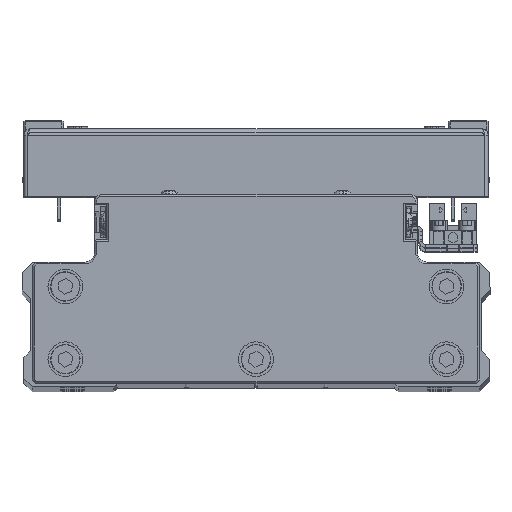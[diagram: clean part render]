
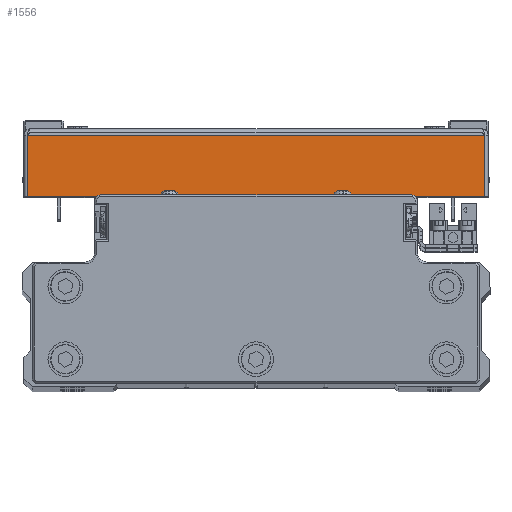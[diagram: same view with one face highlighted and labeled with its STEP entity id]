
A CAD part, top view. The second image highlights one B-rep face of the part: STEP entity #1556.
In plain terms, the highlighted planar face has unit normal (0, 0, 1) as drawn and (1, 0, 0) by its records, which use the part's own axes.
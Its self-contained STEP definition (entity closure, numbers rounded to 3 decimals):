
#1244 = LINE ( 'NONE', #14948, #38288 ) ;
#1556 = ADVANCED_FACE ( 'NONE', ( #35996 ), #5179, .F. ) ;
#1814 = DIRECTION ( 'NONE',  ( 0., -1., 0. ) ) ;
#2291 = EDGE_CURVE ( 'NONE', #24288, #39675, #29295, .T. ) ;
#3872 = ORIENTED_EDGE ( 'NONE', *, *, #20920, .T. ) ;
#4875 = CARTESIAN_POINT ( 'NONE',  ( 100., 18.5, -65.929 ) ) ;
#5179 = PLANE ( 'NONE',  #16564 ) ;
#6278 = LINE ( 'NONE', #19989, #44425 ) ;
#6630 = DIRECTION ( 'NONE',  ( 0., 1., 0. ) ) ;
#8735 = CARTESIAN_POINT ( 'NONE',  ( 100., 1., -65.929 ) ) ;
#11927 = ORIENTED_EDGE ( 'NONE', *, *, #2291, .F. ) ;
#12187 = DIRECTION ( 'NONE',  ( 0., 0., 1. ) ) ;
#14948 = CARTESIAN_POINT ( 'NONE',  ( 100., 18.5, 0. ) ) ;
#16564 = AXIS2_PLACEMENT_3D ( 'NONE', #18901, #32627, #1814 ) ;
#18901 = CARTESIAN_POINT ( 'NONE',  ( 100., 0., 0. ) ) ;
#19989 = CARTESIAN_POINT ( 'NONE',  ( 100., 0., 65.929 ) ) ;
#20920 = EDGE_CURVE ( 'NONE', #41279, #24098, #1244, .T. ) ;
#23715 = LINE ( 'NONE', #37453, #27181 ) ;
#24098 = VERTEX_POINT ( 'NONE', #27866 ) ;
#24288 = VERTEX_POINT ( 'NONE', #8735 ) ;
#27181 = VECTOR ( 'NONE', #6630, 1000. ) ;
#27866 = CARTESIAN_POINT ( 'NONE',  ( 100., 18.5, 65.929 ) ) ;
#28663 = DIRECTION ( 'NONE',  ( 0., 0., 1. ) ) ;
#29295 = LINE ( 'NONE', #43039, #39838 ) ;
#30469 = EDGE_CURVE ( 'NONE', #39675, #24098, #6278, .T. ) ;
#31410 = EDGE_CURVE ( 'NONE', #24288, #41279, #23715, .T. ) ;
#31642 = EDGE_LOOP ( 'NONE', ( #11927, #37866, #3872, #36482 ) ) ;
#32627 = DIRECTION ( 'NONE',  ( -1., 0., 0. ) ) ;
#33735 = DIRECTION ( 'NONE',  ( 0., 1., 0. ) ) ;
#35967 = CARTESIAN_POINT ( 'NONE',  ( 100., 1., 65.929 ) ) ;
#35996 = FACE_OUTER_BOUND ( 'NONE', #31642, .T. ) ;
#36482 = ORIENTED_EDGE ( 'NONE', *, *, #30469, .F. ) ;
#37453 = CARTESIAN_POINT ( 'NONE',  ( 100., 0., -65.929 ) ) ;
#37866 = ORIENTED_EDGE ( 'NONE', *, *, #31410, .T. ) ;
#38288 = VECTOR ( 'NONE', #28663, 1000. ) ;
#39675 = VERTEX_POINT ( 'NONE', #35967 ) ;
#39838 = VECTOR ( 'NONE', #12187, 1000. ) ;
#41279 = VERTEX_POINT ( 'NONE', #4875 ) ;
#43039 = CARTESIAN_POINT ( 'NONE',  ( 100., 1., 67. ) ) ;
#44425 = VECTOR ( 'NONE', #33735, 1000. ) ;
